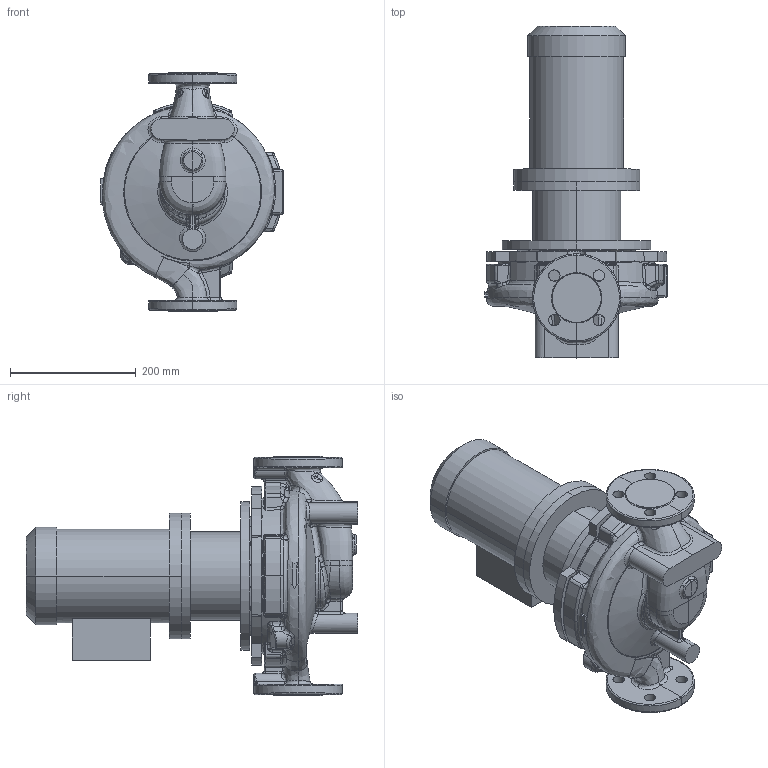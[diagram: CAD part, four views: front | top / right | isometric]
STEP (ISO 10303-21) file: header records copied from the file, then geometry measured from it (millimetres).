
FILE_DESCRIPTION (( 'STEP AP214' ), '1' );
FILE_NAME ('KRL 32-200-4-0,55.STEP', '2026-03-17T09:55:56', ( '' ), ( '' ), 'SwSTEP 2.0', 'SolidWorks 2016', '' );
FILE_SCHEMA (( 'AUTOMOTIVE_DESIGN' ));
Length unit declared in the file: millimetre
Products named in the file (1): KRL 32-200-4-0,55
Bounding box: 290 x 526.8 x 380 mm (x, y, z)
Volume: 15067905.7 mm3; surface area: 865259.7 mm2
Topology: 4 solids, 4 shells, 707 faces, 1709 edges, 1006 vertices
Faces by surface type: bspline 336, cylinder 155, plane 109, cone 45, torus 35, sphere 27
Entity records: 60736 total; most frequent: CARTESIAN_POINT 39439, ORIENTED_EDGE 3368, DIRECTION 2082, EDGE_CURVE 1684, VERTEX_POINT 1006, AXIS2_PLACEMENT_3D 899, EDGE_LOOP 744, B_SPLINE_CURVE_WITH_KNOTS 728
